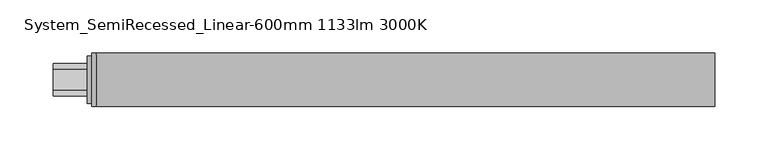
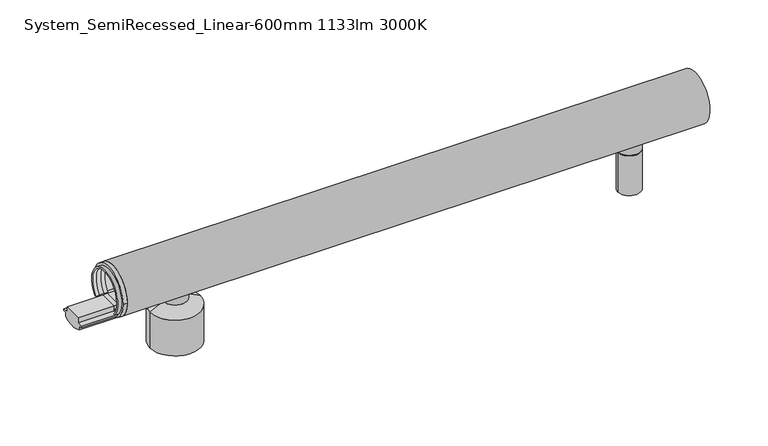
"""IFC4 building model written with IfcOpenShell, lengths in millimetres: light fixture geometry, ARTEMIDE-AoL-System-Linear_WallCeiling_US : System_SemiRecessed_Linear-600mm 1133lm 3000K."""

from ifc_helpers import new_model, si_unit, point, frame, frame_2d, origin, place, context, project, spatial, polyline, circle_curve, trimmed, segment, composite_curve, outline, extrude, source, transform, mapped, element, save
from ifc_brep_helpers import plane_surface, cylinder_surface, revolved_surface, advanced_brep


def system_semirecessed_linear_600mm_1133lm_3000k_a150d737(model_context):
    return source(origin(), model_context, "Body", "SolidModel", [
        advanced_brep(
        [(-2.0, 25.0245983, 74.9754017), (-2.0, -25.0245983, 74.9754017), (-2.0, -9.5062575, 60.6916114), (-2.0, -9.5062575, 64.3781516), (-2.0, 9.5062575, 64.3781516), (-2.0, 9.5062575, 60.6916114), (-2.0, 15.4273739, 60.6916114), (-2.0, 17.2867732, 60.6916114), (-2.0, -17.2867732, 60.6916114), (-2.0, -15.4273739, 60.6916114), (2.0, 25.0245983, 74.9754017), (2.0, -25.0245983, 74.9754017), (2.0, -9.5062575, 60.6916114), (2.0, -15.4273739, 60.6916114), (2.0, -17.2867732, 60.6916114), (2.0, 17.2867732, 60.6916114), (2.0, 15.4273739, 60.6916114), (2.0, 9.5062575, 60.6916114), (2.0, 9.5062575, 64.3781516), (2.0, -9.5062575, 64.3781516), (-6.0, -15.4273739, 60.6916114), (-6.0, -17.2867732, 60.6916114), (-6.0, 17.2867732, 60.6916114), (-6.0, 15.4273739, 60.6916114), (6.0, -15.4273739, 60.6916114), (6.0, 15.4273739, 60.6916114), (6.0, 17.2867732, 60.6916114), (6.0, -17.2867732, 60.6916114)],
        [
            (0, 1, circle_curve(frame((-2.0, 0.0, 74.9754017), z_axis=(-1.0, 0.0, 0.0), x_axis=(0.0, -1.0, 0.0)), 25.0245983)),
            (1, 0, circle_curve(frame((-2.0, 0.0, 74.9754017), z_axis=(-1.0, 0.0, 0.0), x_axis=(0.0, -1.0, 0.0)), 25.0245983)),
            (2, 3),
            (3, 4),
            (4, 5),
            (5, 6),
            (6, 7),
            (7, 8, circle_curve(frame((-2.0, 0.0, 74.9754017), z_axis=(1.0, 0.0, 0.0), x_axis=(0.0, -1.0, 0.0)), 22.4245221)),
            (8, 9),
            (9, 2),
            (10, 11, circle_curve(frame((2.0, 0.0, 74.9754017), z_axis=(1.0, 0.0, 0.0), x_axis=(0.0, -1.0, 0.0)), 25.0245983)),
            (11, 10, circle_curve(frame((2.0, 0.0, 74.9754017), z_axis=(1.0, 0.0, 0.0), x_axis=(0.0, -1.0, 0.0)), 25.0245983)),
            (12, 13),
            (13, 14),
            (14, 15, circle_curve(frame((2.0, 0.0, 74.9754017), z_axis=(-1.0, 0.0, 0.0), x_axis=(0.0, -1.0, 0.0)), 22.4245221)),
            (15, 16),
            (16, 17),
            (17, 18),
            (18, 19),
            (19, 12),
            (5, 17),
            (16, 6),
            (9, 13),
            (12, 2),
            (19, 3),
            (0, 10),
            (11, 1),
            (16, 13, circle_curve(frame((2.0, 0.0, 74.9754017), z_axis=(1.0, 0.0, 0.0), x_axis=(0.0, -1.0, 0.0)), 21.0245221)),
            (9, 6, circle_curve(frame((-2.0, 0.0, 74.9754017), z_axis=(-1.0, 0.0, 0.0), x_axis=(0.0, -1.0, 0.0)), 21.0245221)),
            (20, 21),
            (21, 22, circle_curve(frame((-6.0, 0.0, 74.9754017), z_axis=(-1.0, 0.0, 0.0), x_axis=(0.0, -1.0, 0.0)), 22.4245221)),
            (22, 23),
            (23, 20, circle_curve(frame((-6.0, 0.0, 74.9754017), z_axis=(1.0, 0.0, 0.0), x_axis=(0.0, -1.0, 0.0)), 21.0245221)),
            (24, 25, circle_curve(frame((6.0, 0.0, 74.9754017), z_axis=(-1.0, 0.0, 0.0), x_axis=(0.0, -1.0, 0.0)), 21.0245221)),
            (25, 26),
            (26, 27, circle_curve(frame((6.0, 0.0, 74.9754017), z_axis=(1.0, 0.0, 0.0), x_axis=(0.0, -1.0, 0.0)), 22.4245221)),
            (27, 24),
            (23, 6),
            (9, 20),
            (24, 13),
            (16, 25),
            (8, 21),
            (27, 14),
            (7, 22),
            (26, 15),
            (18, 4),
        ],
        [
            plane_surface(frame((-2.0, 0.0, 74.9754017), z_axis=(-1.0, 0.0, 0.0), x_axis=(0.0, 0.0, -1.0))),
            plane_surface(frame((2.0, 0.0, 74.9754017), z_axis=(1.0, 0.0, 0.0), x_axis=(0.0, 0.0, -1.0))),
            plane_surface(frame((-2.0, 9.5062575, 60.6916114), z_axis=(0.0, 0.0, 1.0), x_axis=(1.0, 0.0, 0.0))),
            plane_surface(frame((-2.0, -15.4273739, 60.6916114), z_axis=(0.0, 0.0, 1.0), x_axis=(1.0, 0.0, 0.0))),
            plane_surface(frame((-2.0, -9.5062575, 60.6916114), z_axis=(0.0, -1.0, 0.0), x_axis=(1.0, 0.0, 0.0))),
            cylinder_surface(frame((-2.0, 0.0, 74.9754017), z_axis=(-1.0, 0.0, 0.0), x_axis=(0.0, -1.0, 0.0)), 25.0245983),
            revolved_surface(polyline([(2.0, -21.0245221, 74.9754017), (-2.0, -21.0245221, 74.9754017)]), (-2.0, 0.0, 74.9754017), (1.0, 0.0, 0.0)),
            plane_surface(frame((-6.0, 0.0, 74.9754017), z_axis=(-1.0, 0.0, 0.0), x_axis=(0.0, 0.0, -1.0))),
            plane_surface(frame((6.0, 0.0, 74.9754017), z_axis=(1.0, 0.0, 0.0), x_axis=(0.0, 0.0, -1.0))),
            revolved_surface(polyline([(-2.0, -21.0245221, 74.9754017), (-6.0, -21.0245221, 74.9754017)]), (-6.0, 0.0, 74.9754017), (1.0, 0.0, 0.0)),
            revolved_surface(polyline([(6.0, -21.0245221, 74.9754017), (2.0, -21.0245221, 74.9754017)]), (-6.0, 0.0, 74.9754017), (1.0, 0.0, 0.0)),
            plane_surface(frame((-6.0, -15.4273739, 60.6916114), z_axis=(0.0, 0.0, -1.0), x_axis=(1.0, 0.0, 0.0))),
            cylinder_surface(frame((-6.0, 0.0, 74.9754017), z_axis=(-1.0, 0.0, 0.0), x_axis=(0.0, -1.0, 0.0)), 22.4245221),
            plane_surface(frame((-6.0, 17.2867732, 60.6916114), z_axis=(0.0, 0.0, -1.0), x_axis=(1.0, 0.0, 0.0))),
            plane_surface(frame((-2.0, -9.5062575, 64.3781516), z_axis=(0.0, 0.0, 1.0), x_axis=(1.0, 0.0, 0.0))),
            plane_surface(frame((-2.0, 9.5062575, 64.3781516), z_axis=(0.0, 1.0, 0.0), x_axis=(1.0, 0.0, 0.0))),
        ],
        [
            (0, [[1, 2], [3, 4, 5, 6, 7, 8, 9, 10]]),
            (1, [[11, 12], [13, 14, 15, 16, 17, 18, 19, 20]]),
            (2, [[-6, 21, -17, 22]]),
            (3, [[-10, 23, -13, 24]]),
            (4, [[-3, -24, -20, 25]]),
            (5, [[-1, 26, -12, 27]]),
            (6, [[-22, 28, -23, 29]]),
            (7, [[30, 31, 32, 33]]),
            (8, [[34, 35, 36, 37]]),
            (9, [[-33, 38, -29, 39]]),
            (10, [[-34, 40, -28, 41]]),
            (11, [[-30, -39, -9, 42]]),
            (11, [[-37, 43, -14, -40]]),
            (12, [[-31, -42, -8, 44]]),
            (12, [[-36, 45, -15, -43]]),
            (13, [[-32, -44, -7, -38]]),
            (13, [[-35, -41, -16, -45]]),
            (5, [[-2, -27, -11, -26]]),
            (14, [[-4, -25, -19, 46]]),
            (15, [[-5, -46, -18, -21]]),
        ],
    ),
        extrude(outline(composite_curve([segment(polyline([(-11.75, 57.2067494), (-15.304087, 57.2067494), (-15.304087, 58.7367744), (-9.5062575, 58.7367744), (-9.5062575, 64.3781516), (9.5062575, 64.3781516), (9.5062575, 58.7367744), (15.304087, 58.7367744), (15.304087, 57.2067494), (11.75, 57.2067494), (11.75, 52.880877)]), True, "CONTINUOUS"), segment(trimmed(circle_curve(frame_2d((0.0, 74.9754017)), 25.0245983), [point((11.75, 52.880877))], [point((-11.75, 52.880877))], False, "CARTESIAN"), True, "CONTINUOUS"), segment(polyline([(-11.75, 52.880877), (-11.75, 57.2067494)]), True, "CONTINUOUS")], self_intersect=False)), frame((2.0, 0.0, 0.0), z_axis=(1.0, 0.0, 0.0), x_axis=(0.0, 1.0, 0.0)), (0.0, 0.0, 1.0), 36.0),
        extrude(outline(composite_curve([segment(polyline([(-11.75, 57.2067494), (-15.304087, 57.2067494), (-15.304087, 58.7367744), (-9.5062575, 58.7367744), (-9.5062575, 64.3781516), (9.5062575, 64.3781516), (9.5062575, 58.7367744), (15.304087, 58.7367744), (15.304087, 57.2067494), (11.75, 57.2067494), (11.75, 52.880877)]), True, "CONTINUOUS"), segment(trimmed(circle_curve(frame_2d((0.0, 74.9754017)), 25.0245983), [point((11.75, 52.880877))], [point((-11.75, 52.880877))], False, "CARTESIAN"), True, "CONTINUOUS"), segment(polyline([(-11.75, 52.880877), (-11.75, 57.2067494)]), True, "CONTINUOUS")], self_intersect=False)), frame((-38.0, 0.0, 0.0), z_axis=(1.0, 0.0, 0.0), x_axis=(0.0, 1.0, 0.0)), (0.0, 0.0, 1.0), 36.0),
        advanced_brep(
        [(64.0, 0.0, 54.0), (76.0, 0.0, 54.0), (52.0, 0.0, 54.0), (39.0, 0.0, 0.0), (89.0, 0.0, 0.0), (64.0, 0.0, 0.0), (39.0, 0.0, 37.5120373), (89.0, 0.0, 37.5120373), (52.0, 0.0, 44.4453706), (76.0, 0.0, 44.4453706)],
        [
            (0, 1),
            (1, 2, circle_curve(frame((64.0, 0.0, 54.0), z_axis=(0.0, 0.0, 1.0), x_axis=(1.0, 0.0, 0.0)), 12.0)),
            (2, 0),
            (2, 1, circle_curve(frame((64.0, 0.0, 54.0), z_axis=(0.0, 0.0, 1.0), x_axis=(1.0, 0.0, 0.0)), 12.0)),
            (3, 4, circle_curve(frame((64.0, 0.0, 0.0), z_axis=(0.0, 0.0, -1.0), x_axis=(1.0, 0.0, 0.0)), 25.0)),
            (4, 5),
            (5, 3),
            (4, 3, circle_curve(frame((64.0, 0.0, 0.0), z_axis=(0.0, 0.0, -1.0), x_axis=(1.0, 0.0, 0.0)), 25.0)),
            (6, 7, circle_curve(frame((64.0, 0.0, 37.5120373), z_axis=(0.0, 0.0, -1.0), x_axis=(1.0, 0.0, 0.0)), 25.0)),
            (7, 4),
            (3, 6),
            (7, 6, circle_curve(frame((64.0, 0.0, 37.5120373), z_axis=(0.0, 0.0, -1.0), x_axis=(1.0, 0.0, 0.0)), 25.0)),
            (8, 9, circle_curve(frame((64.0, 0.0, 44.4453706), z_axis=(0.0, 0.0, -1.0), x_axis=(1.0, 0.0, 0.0)), 12.0)),
            (9, 7),
            (6, 8),
            (9, 8, circle_curve(frame((64.0, 0.0, 44.4453706), z_axis=(0.0, 0.0, -1.0), x_axis=(1.0, 0.0, 0.0)), 12.0)),
            (1, 9),
            (8, 2),
        ],
        [
            plane_surface(frame((64.0, 0.0, 54.0), z_axis=(0.0, 0.0, 1.0), x_axis=(1.0, 0.0, 0.0))),
            plane_surface(frame((64.0, 0.0, 0.0), z_axis=(0.0, 0.0, -1.0), x_axis=(1.0, 0.0, 0.0))),
            cylinder_surface(frame((64.0, 0.0, -58.83358), z_axis=(0.0, 0.0, 1.0), x_axis=(1.0, 0.0, 0.0)), 25.0),
            revolved_surface(polyline([(89.0, 0.0, 37.5120373), (76.0, 0.0, 44.4453706)]), (64.0, 0.0, -58.83358), (0.0, 0.0, 1.0)),
            cylinder_surface(frame((64.0, 0.0, -58.83358), z_axis=(0.0, 0.0, 1.0), x_axis=(1.0, 0.0, 0.0)), 12.0),
        ],
        [
            (0, [[1, 2, 3]]),
            (0, [[-3, 4, -1]]),
            (1, [[5, 6, 7]]),
            (1, [[8, -7, -6]]),
            (2, [[9, 10, -5, 11]]),
            (2, [[12, -11, -8, -10]]),
            (3, [[13, 14, -9, 15]]),
            (3, [[16, -15, -12, -14]]),
            (4, [[-2, 17, -13, 18]]),
            (4, [[-4, -18, -16, -17]]),
        ],
    ),
        advanced_brep(
        [(511.3054564, 0.0, 1.0), (520.6945436, 0.0, 1.0), (520.6945436, 0.0, 0.0), (511.3054564, 0.0, 0.0), (504.8054564, 0.0, 1.0), (527.1945436, 0.0, 1.0), (504.8054564, 0.0, 42.5), (527.1945436, 0.0, 42.5), (507.2810808, 0.0, 42.5), (524.7189192, 0.0, 42.5), (507.2810808, 0.0, 43.4995055), (524.7189192, 0.0, 43.4995055), (504.8054564, 0.0, 43.4995055), (527.1945436, 0.0, 43.4995055), (504.8054564, 0.0, 52.9333396), (527.1945436, 0.0, 52.9333396), (516.0, 0.0, 52.9333396), (516.0, 0.0, 0.0)],
        [
            (0, 1, circle_curve(frame((516.0, 0.0, 1.0), z_axis=(0.0, 0.0, -1.0), x_axis=(1.0, 0.0, 0.0)), 4.6945436)),
            (1, 2),
            (2, 3, circle_curve(frame((516.0, 0.0, 0.0), z_axis=(0.0, 0.0, 1.0), x_axis=(1.0, 0.0, 0.0)), 4.6945436)),
            (3, 0),
            (1, 0, circle_curve(frame((516.0, 0.0, 1.0), z_axis=(0.0, 0.0, -1.0), x_axis=(1.0, 0.0, 0.0)), 4.6945436)),
            (3, 2, circle_curve(frame((516.0, 0.0, 0.0), z_axis=(0.0, 0.0, 1.0), x_axis=(1.0, 0.0, 0.0)), 4.6945436)),
            (4, 5, circle_curve(frame((516.0, 0.0, 1.0), z_axis=(0.0, 0.0, -1.0), x_axis=(1.0, 0.0, 0.0)), 11.1945436)),
            (5, 1),
            (0, 4),
            (5, 4, circle_curve(frame((516.0, 0.0, 1.0), z_axis=(0.0, 0.0, -1.0), x_axis=(1.0, 0.0, 0.0)), 11.1945436)),
            (6, 7, circle_curve(frame((516.0, 0.0, 42.5), z_axis=(0.0, 0.0, -1.0), x_axis=(1.0, 0.0, 0.0)), 11.1945436)),
            (7, 5),
            (4, 6),
            (7, 6, circle_curve(frame((516.0, 0.0, 42.5), z_axis=(0.0, 0.0, -1.0), x_axis=(1.0, 0.0, 0.0)), 11.1945436)),
            (8, 9, circle_curve(frame((516.0, 0.0, 42.5), z_axis=(0.0, 0.0, -1.0), x_axis=(1.0, 0.0, 0.0)), 8.7189192)),
            (9, 7),
            (6, 8),
            (9, 8, circle_curve(frame((516.0, 0.0, 42.5), z_axis=(0.0, 0.0, -1.0), x_axis=(1.0, 0.0, 0.0)), 8.7189192)),
            (10, 11, circle_curve(frame((516.0, 0.0, 43.4995055), z_axis=(0.0, 0.0, -1.0), x_axis=(1.0, 0.0, 0.0)), 8.7189192)),
            (11, 9),
            (8, 10),
            (11, 10, circle_curve(frame((516.0, 0.0, 43.4995055), z_axis=(0.0, 0.0, -1.0), x_axis=(1.0, 0.0, 0.0)), 8.7189192)),
            (12, 13, circle_curve(frame((516.0, 0.0, 43.4995055), z_axis=(0.0, 0.0, -1.0), x_axis=(1.0, 0.0, 0.0)), 11.1945436)),
            (13, 11),
            (10, 12),
            (13, 12, circle_curve(frame((516.0, 0.0, 43.4995055), z_axis=(0.0, 0.0, -1.0), x_axis=(1.0, 0.0, 0.0)), 11.1945436)),
            (14, 15, circle_curve(frame((516.0, 0.0, 52.9333396), z_axis=(0.0, 0.0, -1.0), x_axis=(1.0, 0.0, 0.0)), 11.1945436)),
            (15, 13),
            (12, 14),
            (15, 14, circle_curve(frame((516.0, 0.0, 52.9333396), z_axis=(0.0, 0.0, -1.0), x_axis=(1.0, 0.0, 0.0)), 11.1945436)),
            (16, 15),
            (14, 16),
            (2, 17),
            (17, 3),
        ],
        [
            cylinder_surface(frame((516.0, 0.0, -58.83358), z_axis=(0.0, 0.0, 1.0), x_axis=(1.0, 0.0, 0.0)), 4.6945436),
            plane_surface(frame((516.0, 0.0, 1.0), z_axis=(0.0, 0.0, -1.0), x_axis=(1.0, 0.0, 0.0))),
            cylinder_surface(frame((516.0, 0.0, -58.83358), z_axis=(0.0, 0.0, 1.0), x_axis=(1.0, 0.0, 0.0)), 11.1945436),
            plane_surface(frame((516.0, 0.0, 42.5), z_axis=(0.0, 0.0, 1.0), x_axis=(1.0, 0.0, 0.0))),
            cylinder_surface(frame((516.0, 0.0, -58.83358), z_axis=(0.0, 0.0, 1.0), x_axis=(1.0, 0.0, 0.0)), 8.7189192),
            plane_surface(frame((516.0, 0.0, 43.4995055), z_axis=(0.0, 0.0, -1.0), x_axis=(1.0, 0.0, 0.0))),
            plane_surface(frame((516.0, 0.0, 52.9333396), z_axis=(0.0, 0.0, 1.0), x_axis=(1.0, 0.0, 0.0))),
            plane_surface(frame((516.0, 0.0, 0.0), z_axis=(0.0, 0.0, -1.0), x_axis=(1.0, 0.0, 0.0))),
        ],
        [
            (0, [[1, 2, 3, 4]]),
            (0, [[5, -4, 6, -2]]),
            (1, [[7, 8, -1, 9]]),
            (1, [[10, -9, -5, -8]]),
            (2, [[11, 12, -7, 13]]),
            (2, [[14, -13, -10, -12]]),
            (3, [[15, 16, -11, 17]]),
            (3, [[18, -17, -14, -16]]),
            (4, [[19, 20, -15, 21]]),
            (4, [[22, -21, -18, -20]]),
            (5, [[23, 24, -19, 25]]),
            (5, [[26, -25, -22, -24]]),
            (2, [[27, 28, -23, 29]]),
            (2, [[30, -29, -26, -28]]),
            (6, [[31, -27, 32]]),
            (6, [[-32, -30, -31]]),
            (7, [[-3, 33, 34]]),
            (7, [[-6, -34, -33]]),
        ],
    ),
        extrude(outline(composite_curve([segment(trimmed(circle_curve(frame_2d((0.0, 75.0)), 25.0), [point((-11.75, 52.9333396))], [point((11.75, 52.9333396))], False, "CARTESIAN"), True, "CONTINUOUS"), segment(polyline([(11.75, 52.9333396), (11.75, 57.259212), (13.667754, 57.259212), (13.667754, 55.8288843), (15.617754, 57.2440748), (15.617754, 59.244074), (12.667754, 59.244074), (12.667754, 60.744074), (17.2779794, 60.744074)]), True, "CONTINUOUS"), segment(trimmed(circle_curve(frame_2d((0.0, 75.0)), 22.4), [point((17.2779794, 60.744074))], [point((-17.2779794, 60.744074))], True, "CARTESIAN"), True, "CONTINUOUS"), segment(polyline([(-17.2779794, 60.744074), (-12.667754, 60.744074), (-12.667754, 59.244074), (-15.617754, 59.244074), (-15.617754, 57.2440748), (-13.667754, 55.8288843), (-13.667754, 57.259212), (-11.75, 57.259212), (-11.75, 52.9333396)]), True, "CONTINUOUS")], self_intersect=False)), frame((2.0, 0.0, 0.0), z_axis=(1.0, 0.0, 0.0), x_axis=(0.0, 1.0, 0.0)), (0.0, 0.0, 1.0), 580.0),
        extrude(outline(composite_curve([segment(trimmed(circle_curve(frame_2d((0.0, 75.0)), 25.0), [point((11.75, 52.9333396))], [point((-11.75, 52.9333396))], False, "CARTESIAN"), True, "CONTINUOUS"), segment(polyline([(-11.75, 52.9333396), (-11.75, 57.259212), (-15.304087, 57.259212), (-15.304087, 58.785971), (-9.5062575, 58.785971), (-9.5062575, 64.4273482), (9.5062575, 64.4273482), (9.5062575, 58.785971), (15.304087, 58.785971), (15.304087, 57.259212), (11.75, 57.259212), (11.75, 52.9333396)]), True, "CONTINUOUS")], self_intersect=False)), frame((38.0, 0.0, 0.0), z_axis=(1.0, 0.0, 0.0), x_axis=(0.0, 1.0, 0.0)), (0.0, 0.0, 1.0), 544.0),
    ])


if __name__ == "__main__":
    model = new_model("IFC4")
    model_context = context("Model", 3, world=origin())
    ifc_project = project(units=[si_unit("LENGTHUNIT", "METRE", prefix="MILLI")], contexts=[model_context])
    site = spatial("IfcSite", under=ifc_project)
    building = spatial("IfcBuilding", under=site)
    placement = place(None, origin())
    system_semirecessed_linear_600mm_1133lm_3000k_shape = system_semirecessed_linear_600mm_1133lm_3000k_a150d737(model_context)
    element("IfcLightFixture", 1, ObjectType="ARTEMIDE-AoL-System-Linear_WallCeiling_US : System_SemiRecessed_Linear-600mm 1133lm 3000K", at=placement, inside=building, context=model_context, shape_type="MappedRepresentation", body=[
        mapped(system_semirecessed_linear_600mm_1133lm_3000k_shape, transform((0.0, 0.0, 0.0), x_axis=(1.0, 0.0, 0.0), y_axis=(0.0, 1.0, 0.0), z_axis=(0.0, 0.0, 1.0))),
    ])
    save(model, "model.ifc")
